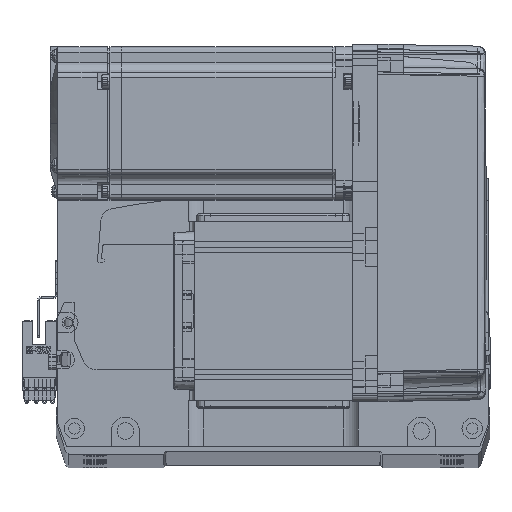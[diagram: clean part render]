
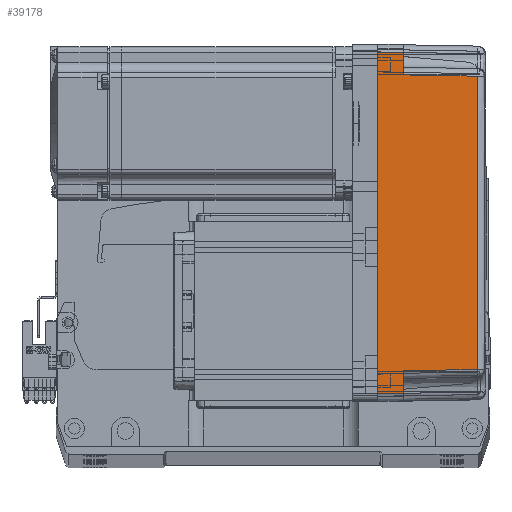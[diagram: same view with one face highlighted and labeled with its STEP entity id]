
A CAD part, top view. The second image highlights one B-rep face of the part: STEP entity #39178.
In plain terms, the highlighted planar face has unit normal (0.018, 0, 1) as drawn and (0, -1, 0.017) by its records, which use the part's own axes.
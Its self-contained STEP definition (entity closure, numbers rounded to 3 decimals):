
#312 = EDGE_LOOP ( 'NONE', ( #23355, #17350, #55809, #24608, #6647, #63507, #38346, #19396 ) ) ;
#936 = CARTESIAN_POINT ( 'NONE',  ( -66.826, -35.825, 10. ) ) ;
#1848 = DIRECTION ( 'NONE',  ( -0.017, 0.017, 1. ) ) ;
#2006 = CARTESIAN_POINT ( 'NONE',  ( 58., -35.825, 10. ) ) ;
#2849 = CARTESIAN_POINT ( 'NONE',  ( 58., -35.825, 10. ) ) ;
#4219 = DIRECTION ( 'NONE',  ( 0.017, 0.017, 1. ) ) ;
#5398 = AXIS2_PLACEMENT_3D ( 'NONE', #27371, #49140, #10867 ) ;
#6647 = ORIENTED_EDGE ( 'NONE', *, *, #31233, .T. ) ;
#6945 = LINE ( 'NONE', #41961, #65943 ) ;
#9623 = DIRECTION ( 'NONE',  ( -1., 0., 0. ) ) ;
#10867 = DIRECTION ( 'NONE',  ( 0., -0.017, -1. ) ) ;
#11618 = CARTESIAN_POINT ( 'NONE',  ( 67., -36., 0. ) ) ;
#12753 = CARTESIAN_POINT ( 'NONE',  ( -57.495, -35.32, 38.985 ) ) ;
#12829 = CARTESIAN_POINT ( 'NONE',  ( -67., -36., 0. ) ) ;
#13106 = VERTEX_POINT ( 'NONE', #12829 ) ;
#13179 = VERTEX_POINT ( 'NONE', #936 ) ;
#14488 = LINE ( 'NONE', #58505, #28221 ) ;
#17350 = ORIENTED_EDGE ( 'NONE', *, *, #45121, .T. ) ;
#18288 = VECTOR ( 'NONE', #46961, 1000. ) ;
#19396 = ORIENTED_EDGE ( 'NONE', *, *, #34216, .F. ) ;
#23355 = ORIENTED_EDGE ( 'NONE', *, *, #37025, .T. ) ;
#24342 = VERTEX_POINT ( 'NONE', #12753 ) ;
#24608 = ORIENTED_EDGE ( 'NONE', *, *, #30411, .T. ) ;
#27097 = LINE ( 'NONE', #47619, #37434 ) ;
#27148 = EDGE_CURVE ( 'NONE', #57403, #13179, #6945, .T. ) ;
#27190 = CARTESIAN_POINT ( 'NONE',  ( -57.495, -35.32, 38.985 ) ) ;
#27371 = CARTESIAN_POINT ( 'NONE',  ( 70., -36., 0. ) ) ;
#27965 = VERTEX_POINT ( 'NONE', #51627 ) ;
#28114 = VECTOR ( 'NONE', #63413, 1000. ) ;
#28221 = VECTOR ( 'NONE', #4219, 1000. ) ;
#29011 = FACE_OUTER_BOUND ( 'NONE', #312, .T. ) ;
#29876 = EDGE_CURVE ( 'NONE', #13106, #13179, #14488, .T. ) ;
#30275 = VERTEX_POINT ( 'NONE', #2006 ) ;
#30411 = EDGE_CURVE ( 'NONE', #39207, #24342, #55601, .T. ) ;
#30668 = DIRECTION ( 'NONE',  ( -1., 0., 0. ) ) ;
#31233 = EDGE_CURVE ( 'NONE', #24342, #57403, #51228, .T. ) ;
#32698 = CARTESIAN_POINT ( 'NONE',  ( 57.495, -35.32, 38.985 ) ) ;
#33555 = LINE ( 'NONE', #11618, #36121 ) ;
#34216 = EDGE_CURVE ( 'NONE', #27965, #13106, #27097, .T. ) ;
#36121 = VECTOR ( 'NONE', #1848, 1000. ) ;
#37025 = EDGE_CURVE ( 'NONE', #27965, #68000, #33555, .T. ) ;
#37434 = VECTOR ( 'NONE', #9623, 1000. ) ;
#38346 = ORIENTED_EDGE ( 'NONE', *, *, #29876, .F. ) ;
#38466 = CARTESIAN_POINT ( 'NONE',  ( 19.165, -35.316, 39.181 ) ) ;
#39178 = ADVANCED_FACE ( 'NONE', ( #29011 ), #59226, .T. ) ;
#39207 = VERTEX_POINT ( 'NONE', #43231 ) ;
#40998 = VECTOR ( 'NONE', #51812, 1000. ) ;
#41557 = CARTESIAN_POINT ( 'NONE',  ( 70., -35.825, 10. ) ) ;
#41961 = CARTESIAN_POINT ( 'NONE',  ( 70., -35.825, 10. ) ) ;
#43231 = CARTESIAN_POINT ( 'NONE',  ( 57.495, -35.32, 38.985 ) ) ;
#44003 = LINE ( 'NONE', #41557, #18288 ) ;
#44617 = CARTESIAN_POINT ( 'NONE',  ( -58., -35.825, 10. ) ) ;
#45121 = EDGE_CURVE ( 'NONE', #68000, #30275, #44003, .T. ) ;
#46961 = DIRECTION ( 'NONE',  ( -1., 0., 0. ) ) ;
#47619 = CARTESIAN_POINT ( 'NONE',  ( 0., -36., 0. ) ) ;
#49140 = DIRECTION ( 'NONE',  ( 0., -1., 0.017 ) ) ;
#51228 = LINE ( 'NONE', #69401, #28114 ) ;
#51627 = CARTESIAN_POINT ( 'NONE',  ( 67., -36., 0. ) ) ;
#51812 = DIRECTION ( 'NONE',  ( -0.017, 0.017, 1. ) ) ;
#54479 = CARTESIAN_POINT ( 'NONE',  ( -19.165, -35.316, 39.181 ) ) ;
#55601 = B_SPLINE_CURVE_WITH_KNOTS ( 'NONE', 3,
 ( #32698, #38466, #54479, #27190 ),
 .UNSPECIFIED., .F., .F.,
 ( 4, 4 ),
 ( 0., 1. ),
 .UNSPECIFIED. ) ;
#55809 = ORIENTED_EDGE ( 'NONE', *, *, #65957, .T. ) ;
#57403 = VERTEX_POINT ( 'NONE', #44617 ) ;
#58505 = CARTESIAN_POINT ( 'NONE',  ( -66.959, -35.958, 2.39 ) ) ;
#59226 = PLANE ( 'NONE',  #5398 ) ;
#61492 = LINE ( 'NONE', #2849, #40998 ) ;
#62165 = CARTESIAN_POINT ( 'NONE',  ( 66.826, -35.825, 10. ) ) ;
#63413 = DIRECTION ( 'NONE',  ( -0.017, -0.017, -1. ) ) ;
#63507 = ORIENTED_EDGE ( 'NONE', *, *, #27148, .T. ) ;
#65943 = VECTOR ( 'NONE', #30668, 1000. ) ;
#65957 = EDGE_CURVE ( 'NONE', #30275, #39207, #61492, .T. ) ;
#68000 = VERTEX_POINT ( 'NONE', #62165 ) ;
#69401 = CARTESIAN_POINT ( 'NONE',  ( -57.495, -35.32, 38.985 ) ) ;
